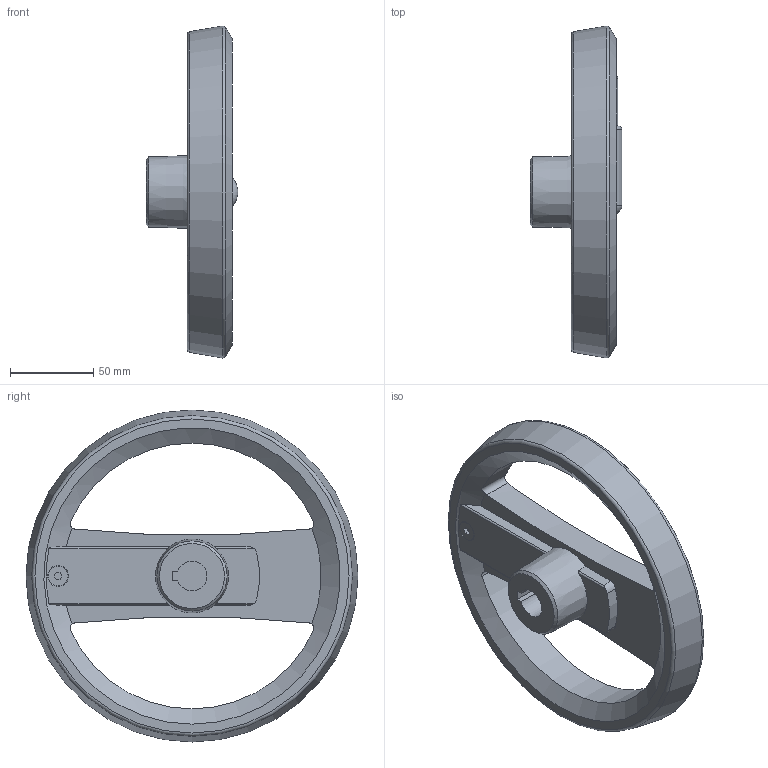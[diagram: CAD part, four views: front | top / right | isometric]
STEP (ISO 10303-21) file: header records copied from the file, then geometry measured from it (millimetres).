
FILE_DESCRIPTION( ( 'STEP AP203' ), '1' );
FILE_NAME( 'C:/Temp/Ganter_Step_05_03_2020/data/1_3/gn_924_3/gn_924_3_k/Handwheel with retractable handle GN 924.3-200-K18-R-SR (unactivated).stp', '2020-03-05T10:41:19', ( 'License CC BY-ND 4.0' ), ( 'CADENAS' ), ' ', 'PARTsolutions', ' ' );
FILE_SCHEMA( ( 'CONFIG_CONTROL_DESIGN' ) );
Length unit declared in the file: millimetre
Products named in the file (3): Handwheel with retractable handle GN 924.3-200-K18-R-SR (unactivated); _Umleggriff-Handrad GN 924.3-200-K18-R-SR-1; _Umleggriff-Handrad GN 924.3-200-K18-R-SR-2
Assembly tree (2 placements, depth 2):
  Handwheel with retractable handle GN 924.3-200-K18-R-SR (unactivated)
    _Umleggriff-Handrad GN 924.3-200-K18-R-SR-1
    _Umleggriff-Handrad GN 924.3-200-K18-R-SR-2
Bounding box: 55.2 x 199.58 x 199.58 mm (x, y, z)
Volume: 416743.6 mm3; surface area: 85455.2 mm2
Topology: 2 solids, 2 shells, 104 faces, 269 edges, 172 vertices
Faces by surface type: plane 46, cylinder 39, cone 10, torus 7, sphere 2
Full cylindrical faces by diameter (mm): 3.96 x2, 4 x2, 5 x1, 10 x1, 12 x1, 20 x1, 25 x2, 26.6 x1
Entity records: 3433 total; most frequent: CARTESIAN_POINT 928, DIRECTION 504, ORIENTED_EDGE 462, EDGE_CURVE 231, AXIS2_PLACEMENT_3D 203, VERTEX_POINT 166, EDGE_LOOP 144, FACE_OUTER_BOUND 122
